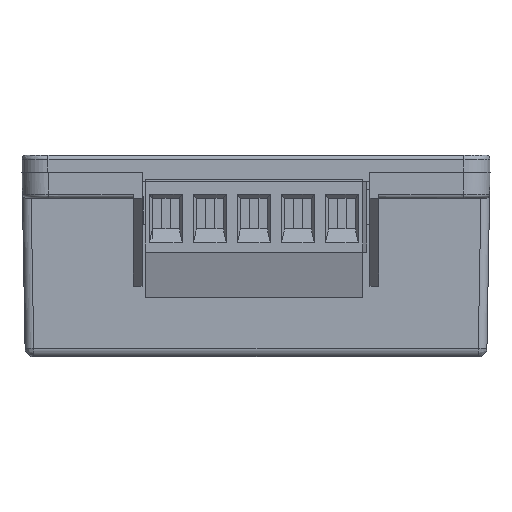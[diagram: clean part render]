
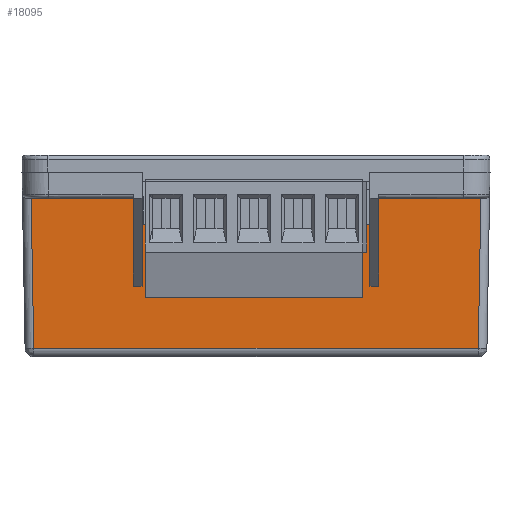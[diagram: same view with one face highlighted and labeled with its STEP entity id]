
A CAD part, front view. The second image highlights one B-rep face of the part: STEP entity #18095.
In plain terms, the highlighted planar face has unit normal (0, -1, -0.018) as drawn and (0, -1, 0.017) by its records, which use the part's own axes.
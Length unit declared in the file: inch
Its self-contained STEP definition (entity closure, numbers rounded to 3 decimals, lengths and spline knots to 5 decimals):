
#74 = CARTESIAN_POINT ( 'NONE',  ( -0.51772, -1.49597, 0.23622 ) ) ;
#475 = CARTESIAN_POINT ( 'NONE',  ( -0.55709, -1.49803, 0.11811 ) ) ;
#748 = PLANE ( 'NONE',  #5209 ) ;
#1214 = CARTESIAN_POINT ( 'NONE',  ( 1.06299, -1.48613, 0.7999 ) ) ;
#2183 = EDGE_CURVE ( 'NONE', #9518, #17518, #9768, .T. ) ;
#2349 = EDGE_CURVE ( 'NONE', #23122, #14871, #8911, .T. ) ;
#2526 = VECTOR ( 'NONE', #29573, 39.37008 ) ;
#2751 = CARTESIAN_POINT ( 'NONE',  ( -0.55709, -1.49107, 0.51671 ) ) ;
#2775 = LINE ( 'NONE', #12232, #8826 ) ;
#2864 = ORIENTED_EDGE ( 'NONE', *, *, #14769, .T. ) ;
#3322 = VERTEX_POINT ( 'NONE', #12574 ) ;
#3390 = LINE ( 'NONE', #7219, #17160 ) ;
#3564 = VECTOR ( 'NONE', #16023, 39.37008 ) ;
#5209 = AXIS2_PLACEMENT_3D ( 'NONE', #29200, #13737, #31841 ) ;
#5358 = DIRECTION ( 'NONE',  ( -0.017, -0.017, -1. ) ) ;
#5593 = VERTEX_POINT ( 'NONE', #2751 ) ;
#6047 = VERTEX_POINT ( 'NONE', #17205 ) ;
#6318 = LINE ( 'NONE', #29079, #26607 ) ;
#6438 = EDGE_CURVE ( 'NONE', #9574, #22189, #9723, .T. ) ;
#6849 = LINE ( 'NONE', #475, #19814 ) ;
#7175 = EDGE_CURVE ( 'NONE', #28142, #26717, #24207, .T. ) ;
#7219 = CARTESIAN_POINT ( 'NONE',  ( -0.51772, -1.49803, 0.11811 ) ) ;
#8373 = CARTESIAN_POINT ( 'NONE',  ( -1.00967, -1.48613, 0.7999 ) ) ;
#8826 = VECTOR ( 'NONE', #25129, 39.37008 ) ;
#8831 = ORIENTED_EDGE ( 'NONE', *, *, #2183, .T. ) ;
#8911 = LINE ( 'NONE', #23428, #15792 ) ;
#9449 = VECTOR ( 'NONE', #22744, 39.37008 ) ;
#9518 = VERTEX_POINT ( 'NONE', #28326 ) ;
#9546 = ORIENTED_EDGE ( 'NONE', *, *, #14770, .T. ) ;
#9574 = VERTEX_POINT ( 'NONE', #20998 ) ;
#9723 = LINE ( 'NONE', #21820, #29539 ) ;
#9768 = LINE ( 'NONE', #30133, #16654 ) ;
#9833 = DIRECTION ( 'NONE',  ( 0., -0.017, -1. ) ) ;
#10058 = CARTESIAN_POINT ( 'NONE',  ( 0.51772, -1.49107, 0.51671 ) ) ;
#10571 = ORIENTED_EDGE ( 'NONE', *, *, #2349, .T. ) ;
#10620 = DIRECTION ( 'NONE',  ( -1., 0., 0. ) ) ;
#10799 = CARTESIAN_POINT ( 'NONE',  ( -0.3189, -1.49597, 0.23622 ) ) ;
#11231 = LINE ( 'NONE', #14807, #25036 ) ;
#12040 = VECTOR ( 'NONE', #10620, 39.37008 ) ;
#12232 = CARTESIAN_POINT ( 'NONE',  ( 1.06299, -1.49803, 0.11811 ) ) ;
#12574 = CARTESIAN_POINT ( 'NONE',  ( -0.55709, -1.49803, 0.11811 ) ) ;
#12593 = ORIENTED_EDGE ( 'NONE', *, *, #13321, .F. ) ;
#13321 = EDGE_CURVE ( 'NONE', #9574, #29962, #11231, .T. ) ;
#13737 = DIRECTION ( 'NONE',  ( 0., -1., 0.017 ) ) ;
#13792 = CARTESIAN_POINT ( 'NONE',  ( 0.55709, -1.49803, 0.11811 ) ) ;
#14769 = EDGE_CURVE ( 'NONE', #26717, #29962, #24017, .T. ) ;
#14770 = EDGE_CURVE ( 'NONE', #6047, #28142, #3390, .T. ) ;
#14807 = CARTESIAN_POINT ( 'NONE',  ( 0.5374, -1.49107, 0.51671 ) ) ;
#14871 = VERTEX_POINT ( 'NONE', #15370 ) ;
#15370 = CARTESIAN_POINT ( 'NONE',  ( -1.02157, -1.49803, 0.11811 ) ) ;
#15792 = VECTOR ( 'NONE', #5358, 39.37008 ) ;
#15962 = ORIENTED_EDGE ( 'NONE', *, *, #27832, .T. ) ;
#16023 = DIRECTION ( 'NONE',  ( 1., 0., 0. ) ) ;
#16654 = VECTOR ( 'NONE', #22678, 39.37008 ) ;
#17098 = ORIENTED_EDGE ( 'NONE', *, *, #18091, .T. ) ;
#17150 = ORIENTED_EDGE ( 'NONE', *, *, #6438, .T. ) ;
#17160 = VECTOR ( 'NONE', #9833, 39.37008 ) ;
#17205 = CARTESIAN_POINT ( 'NONE',  ( -0.51772, -1.49107, 0.51671 ) ) ;
#17503 = EDGE_CURVE ( 'NONE', #3322, #5593, #6849, .T. ) ;
#17518 = VERTEX_POINT ( 'NONE', #31769 ) ;
#17829 = ORIENTED_EDGE ( 'NONE', *, *, #7175, .T. ) ;
#18091 = EDGE_CURVE ( 'NONE', #14871, #3322, #6318, .T. ) ;
#18095 = ADVANCED_FACE ( 'NONE', ( #26968 ), #748, .T. ) ;
#19814 = VECTOR ( 'NONE', #21156, 39.37008 ) ;
#20998 = CARTESIAN_POINT ( 'NONE',  ( 0.55709, -1.49107, 0.51671 ) ) ;
#21156 = DIRECTION ( 'NONE',  ( 0., 0.017, 1. ) ) ;
#21729 = ORIENTED_EDGE ( 'NONE', *, *, #17503, .T. ) ;
#21820 = CARTESIAN_POINT ( 'NONE',  ( 0.55709, -1.49803, 0.11811 ) ) ;
#22037 = ORIENTED_EDGE ( 'NONE', *, *, #28567, .T. ) ;
#22189 = VERTEX_POINT ( 'NONE', #13792 ) ;
#22678 = DIRECTION ( 'NONE',  ( -0.017, 0.017, 1. ) ) ;
#22744 = DIRECTION ( 'NONE',  ( 0., 0.017, 1. ) ) ;
#23122 = VERTEX_POINT ( 'NONE', #8373 ) ;
#23148 = LINE ( 'NONE', #1214, #2526 ) ;
#23428 = CARTESIAN_POINT ( 'NONE',  ( -1.00967, -1.48613, 0.7999 ) ) ;
#23664 = EDGE_LOOP ( 'NONE', ( #17150, #22037, #8831, #15962, #10571, #17098, #21729, #31800, #9546, #17829, #2864, #12593 ) ) ;
#24017 = LINE ( 'NONE', #30430, #9449 ) ;
#24207 = LINE ( 'NONE', #10799, #3564 ) ;
#25036 = VECTOR ( 'NONE', #32926, 39.37008 ) ;
#25129 = DIRECTION ( 'NONE',  ( 1., 0., 0. ) ) ;
#26126 = CARTESIAN_POINT ( 'NONE',  ( -0.5374, -1.49107, 0.51671 ) ) ;
#26607 = VECTOR ( 'NONE', #31715, 39.37008 ) ;
#26717 = VERTEX_POINT ( 'NONE', #27181 ) ;
#26968 = FACE_OUTER_BOUND ( 'NONE', #23664, .T. ) ;
#27181 = CARTESIAN_POINT ( 'NONE',  ( 0.51772, -1.49597, 0.23622 ) ) ;
#27832 = EDGE_CURVE ( 'NONE', #17518, #23122, #23148, .T. ) ;
#28142 = VERTEX_POINT ( 'NONE', #74 ) ;
#28326 = CARTESIAN_POINT ( 'NONE',  ( 1.02157, -1.49803, 0.11811 ) ) ;
#28567 = EDGE_CURVE ( 'NONE', #22189, #9518, #2775, .T. ) ;
#28643 = EDGE_CURVE ( 'NONE', #6047, #5593, #31879, .T. ) ;
#29079 = CARTESIAN_POINT ( 'NONE',  ( 1.06299, -1.49803, 0.11811 ) ) ;
#29200 = CARTESIAN_POINT ( 'NONE',  ( 1.06299, -1.49803, 0.11811 ) ) ;
#29539 = VECTOR ( 'NONE', #32315, 39.37008 ) ;
#29573 = DIRECTION ( 'NONE',  ( -1., 0., 0. ) ) ;
#29962 = VERTEX_POINT ( 'NONE', #10058 ) ;
#30133 = CARTESIAN_POINT ( 'NONE',  ( 1.02157, -1.49803, 0.11811 ) ) ;
#30430 = CARTESIAN_POINT ( 'NONE',  ( 0.51772, -1.49803, 0.11811 ) ) ;
#31715 = DIRECTION ( 'NONE',  ( 1., 0., 0. ) ) ;
#31769 = CARTESIAN_POINT ( 'NONE',  ( 1.00967, -1.48613, 0.7999 ) ) ;
#31800 = ORIENTED_EDGE ( 'NONE', *, *, #28643, .F. ) ;
#31841 = DIRECTION ( 'NONE',  ( 0., -0.017, -1. ) ) ;
#31879 = LINE ( 'NONE', #26126, #12040 ) ;
#32315 = DIRECTION ( 'NONE',  ( 0., -0.017, -1. ) ) ;
#32926 = DIRECTION ( 'NONE',  ( -1., 0., 0. ) ) ;
